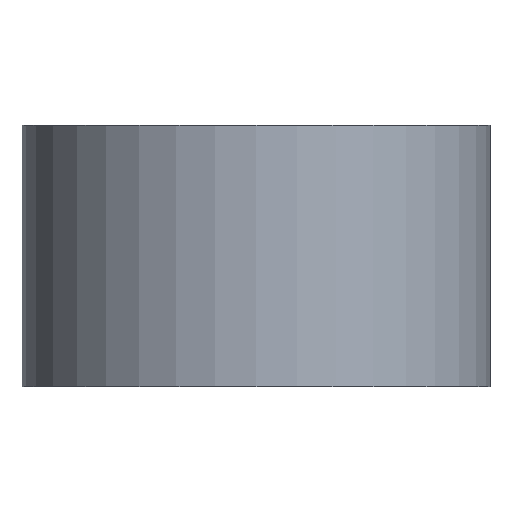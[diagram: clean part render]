
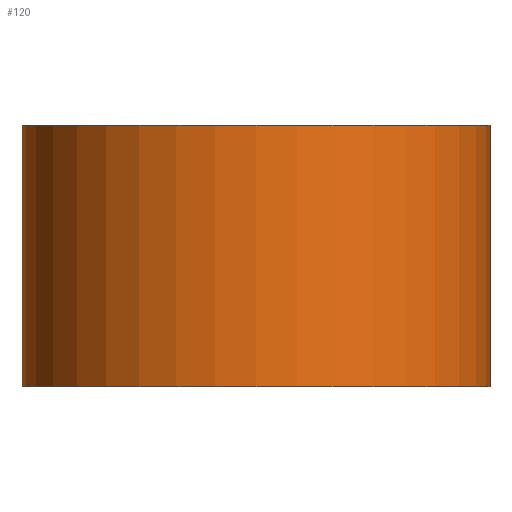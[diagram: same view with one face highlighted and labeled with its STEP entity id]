
A CAD part, front view. The second image highlights one B-rep face of the part: STEP entity #120.
In plain terms, the highlighted cylindrical face has radius 126 mm (diameter 252 mm), a partial arc.
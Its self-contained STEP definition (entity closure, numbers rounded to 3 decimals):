
#64=CARTESIAN_POINT('Axis2P3D Location',(0.,0.,70.5)) ;
#69=CARTESIAN_POINT('Line Origine',(126.,0.,70.5)) ;
#73=CARTESIAN_POINT('Vertex',(126.,0.,0.)) ;
#75=CARTESIAN_POINT('Vertex',(126.,0.,141.)) ;
#82=CARTESIAN_POINT('Vertex',(-126.,0.,0.)) ;
#85=CARTESIAN_POINT('Line Origine',(-126.,0.,70.5)) ;
#89=CARTESIAN_POINT('Vertex',(-126.,0.,141.)) ;
#104=CARTESIAN_POINT('Axis2P3D Location',(0.,0.,0.)) ;
#109=CARTESIAN_POINT('Axis2P3D Location',(0.,0.,141.)) ;
#65=DIRECTION('Axis2P3D Direction',(0.,0.,1.)) ;
#66=DIRECTION('Axis2P3D XDirection',(1.,0.,0.)) ;
#70=DIRECTION('Vector Direction',(0.,0.,1.)) ;
#86=DIRECTION('Vector Direction',(0.,0.,1.)) ;
#105=DIRECTION('Axis2P3D Direction',(0.,0.,1.)) ;
#110=DIRECTION('Axis2P3D Direction',(0.,0.,1.)) ;
#67=AXIS2_PLACEMENT_3D('Cylinder Axis2P3D',#64,#65,#66) ;
#106=AXIS2_PLACEMENT_3D('Circle Axis2P3D',#104,#105,$) ;
#111=AXIS2_PLACEMENT_3D('Circle Axis2P3D',#109,#110,$) ;
#115=ORIENTED_EDGE('',*,*,#91,.F.) ;
#116=ORIENTED_EDGE('',*,*,#108,.T.) ;
#117=ORIENTED_EDGE('',*,*,#77,.T.) ;
#118=ORIENTED_EDGE('',*,*,#113,.F.) ;
#71=VECTOR('Line Direction',#70,1.) ;
#87=VECTOR('Line Direction',#86,1.) ;
#120=ADVANCED_FACE('PartBody',(#119),#68,.T.) ;
#107=CIRCLE('generated circle',#106,126.) ;
#112=CIRCLE('generated circle',#111,126.) ;
#68=CYLINDRICAL_SURFACE('generated cylinder',#67,126.) ;
#77=EDGE_CURVE('',#74,#76,#72,.T.) ;
#91=EDGE_CURVE('',#83,#90,#88,.T.) ;
#108=EDGE_CURVE('',#83,#74,#107,.T.) ;
#113=EDGE_CURVE('',#90,#76,#112,.T.) ;
#114=EDGE_LOOP('',(#115,#116,#117,#118)) ;
#119=FACE_OUTER_BOUND('',#114,.T.) ;
#72=LINE('Line',#69,#71) ;
#88=LINE('Line',#85,#87) ;
#74=VERTEX_POINT('',#73) ;
#76=VERTEX_POINT('',#75) ;
#83=VERTEX_POINT('',#82) ;
#90=VERTEX_POINT('',#89) ;
